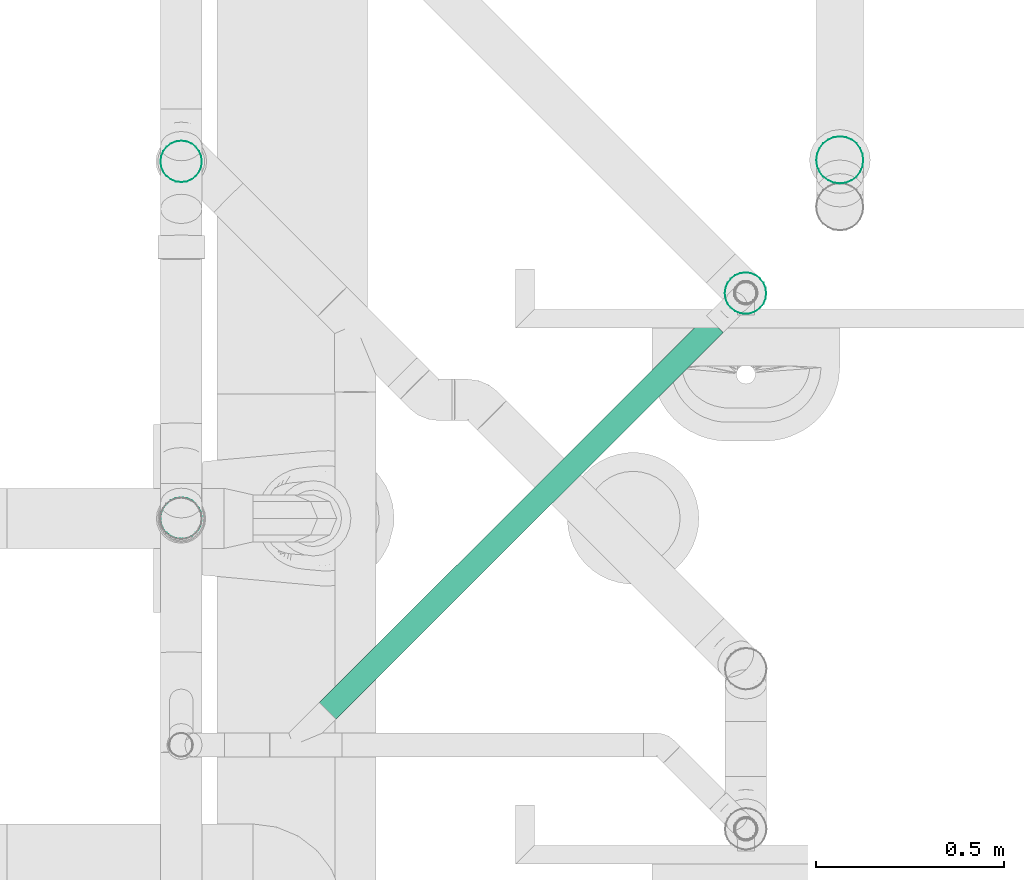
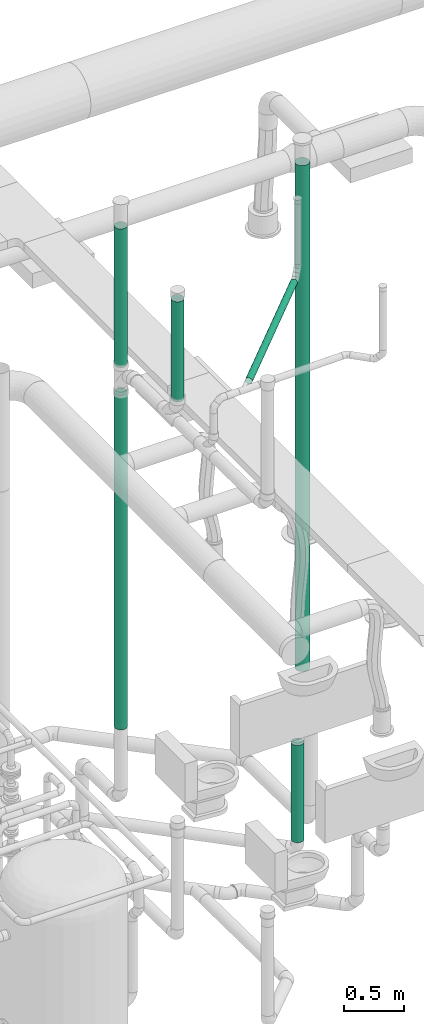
# One storey, part 219 of 374: 6 flow segments.
"""IFC2X3 building model written with IfcOpenShell, lengths in metres."""

import ifcopenshell
import ifcopenshell.guid

model = None  # the IFC model being written
_history = None  # IfcOwnerHistory: only IFC2X3 demands one
_inside = {}  # id of a spatial element -> (the spatial element, [elements in it])
_under = {}  # id of a project, library or spatial element -> (it, [spatial elements below it])
_declared = {}  # id of a project -> (the project, [libraries it declares])
_typed = {}  # id of a type object -> (the type object, [elements of that type])
_made_of = {}  # id of a material, layer set ... -> (it, [elements and type objects made of it])


def new_model(schema):
    """Start an empty IFC model of exactly this schema.

    Asked for "IFC4X3", IfcOpenShell would pick the latest addendum, in which some entities
    have other attributes; the version numbers below select the first issue.
    IFC2X3 requires an IfcOwnerHistory on every rooted entity: one is made here for all.
    """
    global model, _history
    if schema == "IFC4X3":
        model = ifcopenshell.file(schema_version=(4, 3, 0, 0))
    else:
        model = ifcopenshell.file(schema=schema)
    _inside.clear()
    _under.clear()
    _declared.clear()
    _typed.clear()
    _made_of.clear()
    _history = None
    if model.schema == "IFC2X3":
        org = make("IfcOrganization", Name="unknown")
        user = make(
            "IfcPersonAndOrganization",
            ThePerson=make("IfcPerson", FamilyName="unknown"),
            TheOrganization=org,
        )
        app = make(
            "IfcApplication",
            ApplicationDeveloper=org,
            Version="unknown",
            ApplicationFullName="unknown",
            ApplicationIdentifier="unknown",
        )
        _history = make(
            "IfcOwnerHistory",
            OwningUser=user,
            OwningApplication=app,
            ChangeAction="ADDED",
            CreationDate=0,
        )
    return model


def make(cls, **values):
    """One entity of the class cls with the attributes given. An attribute that is None is left unset."""
    return model.create_entity(
        cls, **{name: value for name, value in values.items() if value is not None}
    )


def rooted(cls, **values):
    """An entity with a GlobalId (a new one), such as an element, a storey or a relation."""
    return make(cls, GlobalId=ifcopenshell.guid.new(), OwnerHistory=_history, **values)


def si_unit(unit_type, name, prefix=None):
    """IfcSIUnit, for example si_unit("LENGTHUNIT", "METRE", prefix="MILLI")."""
    return make("IfcSIUnit", UnitType=unit_type, Prefix=prefix, Name=name)


def assignment(units):
    """IfcUnitAssignment: the units of a project."""
    return None if units is None else make("IfcUnitAssignment", Units=units)


def point(xyz):
    """IfcCartesianPoint."""
    return None if xyz is None else make("IfcCartesianPoint", Coordinates=xyz)


def direction(xyz):
    """IfcDirection."""
    return None if xyz is None else make("IfcDirection", DirectionRatios=xyz)


def frame(location, z_axis=None, x_axis=None):
    """IfcAxis2Placement3D, a coordinate frame: its origin and axes. An axis left out is left unset."""
    return make(
        "IfcAxis2Placement3D",
        Location=point(location),
        Axis=direction(z_axis),
        RefDirection=direction(x_axis),
    )


def origin():
    """The frame at (0, 0, 0) with its axes left unset."""
    return frame((0.0, 0.0, 0.0))


def place(relative_to, where):
    """IfcLocalPlacement: puts the frame where relative to a parent placement (None: the world)."""
    return make(
        "IfcLocalPlacement", PlacementRelTo=relative_to, RelativePlacement=where
    )


def context(
    kind, dimensions, precision=None, world=None, true_north=None, identifier=None
):
    """IfcGeometricRepresentationContext, for example the 3D "Model" context."""
    return make(
        "IfcGeometricRepresentationContext",
        ContextIdentifier=identifier,
        ContextType=kind,
        CoordinateSpaceDimension=dimensions,
        Precision=precision,
        WorldCoordinateSystem=world,
        TrueNorth=true_north,
    )


def subcontext(parent, identifier, kind, view, scale=None):
    """IfcGeometricRepresentationSubContext, for example "Body" below "Model"."""
    return make(
        "IfcGeometricRepresentationSubContext",
        ContextIdentifier=identifier,
        ContextType=kind,
        ParentContext=parent,
        TargetScale=scale,
        TargetView=view,
    )


def project(units=None, contexts=None):
    """IfcProject with its units and contexts."""
    return rooted(
        "IfcProject",
        Name="project",
        RepresentationContexts=contexts,
        UnitsInContext=assignment(units),
    )


def spatial(cls, under=None, at=None, **own):
    """A site, building, storey or space (cls), placed at a placement, below another one or the project."""
    s = rooted(cls, ObjectPlacement=at, **own)
    if under is not None:
        _under.setdefault(under.id(), (under, []))[1].append(s)
    return s


def faces_of(points, faces, orient=None, outer=None):
    """IfcFace entities. A face is a list of loops; a loop is a list of indices into points, from 0.

    orient and outer hold one flag for each loop. By default every Orientation is true, the
    first loop of a face is its IfcFaceOuterBound and the others are IfcFaceBound.
    """
    made = []
    for i, loops in enumerate(faces):
        bounds = []
        for j, loop in enumerate(loops):
            is_outer = j == 0 if outer is None else outer[i][j]
            bounds.append(
                make(
                    "IfcFaceOuterBound" if is_outer else "IfcFaceBound",
                    Bound=make("IfcPolyLoop", Polygon=[points[k] for k in loop]),
                    Orientation=True if orient is None else orient[i][j],
                )
            )
        made.append(make("IfcFace", Bounds=bounds))
    return made


def open_shell(faces, orient=None, outer=None):
    """The faces of one IfcOpenShell. surface_model builds it on its shared points."""
    return ("IfcOpenShell", faces, orient, outer)


def surface_model(cls, points, shells):
    """IfcFaceBasedSurfaceModel or IfcShellBasedSurfaceModel (cls): surfaces that need not close."""
    shared = [point(p) for p in points]
    made = [make(c, CfsFaces=faces_of(shared, fs, o, b)) for c, fs, o, b in shells]
    if cls == "IfcFaceBasedSurfaceModel":
        return make(cls, FbsmFaces=made)
    return make(cls, SbsmBoundary=made)


def shape(context_of_items, identifier, shape_type, items):
    """IfcShapeRepresentation: the items that make up one representation, for example the "Body"."""
    return make(
        "IfcShapeRepresentation",
        ContextOfItems=context_of_items,
        RepresentationIdentifier=identifier,
        RepresentationType=shape_type,
        Items=items,
    )


def source(mapping_origin, context_of_items, identifier, shape_type, items):
    """IfcRepresentationMap: a shape defined once, which mapped items show again and again."""
    return make(
        "IfcRepresentationMap",
        MappingOrigin=mapping_origin,
        MappedRepresentation=shape(context_of_items, identifier, shape_type, items),
    )


def transform(
    local_origin,
    x_axis=None,
    y_axis=None,
    z_axis=None,
    scale=None,
    scale2=None,
    scale3=None,
    uniform=True,
):
    """IfcCartesianTransformationOperator3D, or its non-uniform kind. x_axis, y_axis, z_axis: its Axis1, 2, 3."""
    if uniform:
        return make(
            "IfcCartesianTransformationOperator3D",
            Axis1=direction(x_axis),
            Axis2=direction(y_axis),
            LocalOrigin=point(local_origin),
            Scale=scale,
            Axis3=direction(z_axis),
        )
    return make(
        "IfcCartesianTransformationOperator3DnonUniform",
        Axis1=direction(x_axis),
        Axis2=direction(y_axis),
        LocalOrigin=point(local_origin),
        Scale=scale,
        Axis3=direction(z_axis),
        Scale2=scale2,
        Scale3=scale3,
    )


def mapped(mapping_source, mapping_target):
    """IfcMappedItem: shows the shape of a source again, moved by a transform."""
    return make(
        "IfcMappedItem", MappingSource=mapping_source, MappingTarget=mapping_target
    )


def made_of(thing, what):
    """Note that an element or type object is made of a material, layer set ...; save() writes the relation."""
    if what is not None:
        _made_of.setdefault(what.id(), (what, []))[1].append(thing)
    return thing


def element(
    cls,
    number,
    at=None,
    inside=None,
    cuts=None,
    type_object=None,
    material=None,
    context=None,
    identifier="Body",
    shape_type=None,
    held_by="IfcProductDefinitionShape",
    body=None,
    shapes=None,
    **own,
):
    """One element of the class cls, such as IfcWall. Its Tag is "e" and its number.

    at: its placement. inside: the storey or other place that contains it. cuts: it is an
    opening in that element (IfcRelVoidsElement). A single representation is given by context,
    identifier, shape_type and body (its items); several are given by shapes. held_by: the class
    of the entity that holds the representations. save() writes the other relations.
    """
    e = rooted(cls, Tag="e%d" % number, ObjectPlacement=at, **own)
    if body is not None:
        shapes = [shape(context, identifier, shape_type, body)]
    if shapes is not None:
        e.Representation = make(held_by, Representations=shapes)
    if inside is not None:
        _inside.setdefault(inside.id(), (inside, []))[1].append(e)
    if cuts is not None:
        rooted(
            "IfcRelVoidsElement", RelatingBuildingElement=cuts, RelatedOpeningElement=e
        )
    if type_object is not None:
        _typed.setdefault(type_object.id(), (type_object, []))[1].append(e)
    return made_of(e, material)


def aggregate(whole, parts):
    """IfcRelAggregates: a whole, such as a stair, and the parts it consists of."""
    return rooted("IfcRelAggregates", RelatingObject=whole, RelatedObjects=parts)


def save(model, path):
    """Write the relations noted so far, then the file.

    IfcRelAggregates (storeys below a building ...), IfcRelContainedInSpatialStructure (elements
    in a storey), IfcRelDefinesByType, IfcRelAssociatesMaterial and IfcRelDeclares: one each for
    every whole, place, type object, material and project.
    """
    for whole, parts in _under.values():
        aggregate(whole, parts)
    for where, things in _inside.values():
        rooted(
            "IfcRelContainedInSpatialStructure",
            RelatedElements=things,
            RelatingStructure=where,
        )
    for kind, things in _typed.values():
        rooted("IfcRelDefinesByType", RelatedObjects=things, RelatingType=kind)
    for what, things in _made_of.values():
        rooted("IfcRelAssociatesMaterial", RelatedObjects=things, RelatingMaterial=what)
    for by, libraries in _declared.values():
        rooted("IfcRelDeclares", RelatingContext=by, RelatedDefinitions=libraries)
    model.write(path)


model = new_model("IFC2X3")

# Units and contexts
model_context = context("Model", 3, precision=1e-05, world=origin(), true_north=direction((-0.4480736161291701, 0.8939966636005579)))
body_context = subcontext(model_context, "Body", "Model", "MODEL_VIEW")
ifc_project = project(units=[si_unit("LENGTHUNIT", "METRE"), si_unit("AREAUNIT", "SQUARE_METRE"), si_unit("VOLUMEUNIT", "CUBIC_METRE"), si_unit("PLANEANGLEUNIT", "RADIAN"), si_unit("THERMODYNAMICTEMPERATUREUNIT", "KELVIN"), si_unit("MASSUNIT", "GRAM", prefix="KILO"), si_unit("TIMEUNIT", "SECOND")], contexts=[model_context])

# Site, building, storey
site_placement = place(None, origin())
site = spatial("IfcSite", under=ifc_project, at=site_placement, Name="Site 1", CompositionType="ELEMENT")
building_placement = place(site_placement, origin())
building = spatial("IfcBuilding", under=site, at=building_placement, Name="Undefined", CompositionType="ELEMENT")
storey_placement = place(building_placement, origin())
storey = spatial("IfcBuildingStorey", under=building, at=storey_placement, Name="Rez de chauss\x8ee", CompositionType="ELEMENT", Elevation=0.0)

# Flow segments
shared_shape_1 = source(origin(), body_context, "Body", "SurfaceModel", [
    surface_model("IfcFaceBasedSurfaceModel", [(0.0, 0.014357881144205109, -3.552713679e-15), (0.0, 0.0, 0.0), (0.9910358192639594, 0.0, 0.0), (0.9910358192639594, 0.014357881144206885, 0.0), (0.0, -0.01386864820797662, -0.0037160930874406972), (0.9910358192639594, -0.013868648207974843, -0.0037160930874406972), (0.0, -0.026302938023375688, -0.010895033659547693), (0.9910358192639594, -0.02630293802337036, -0.010895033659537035), (0.0, -0.03645549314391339, -0.021047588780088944), (0.9910358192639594, -0.03645549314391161, -0.02104758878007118), (0.0, -0.04363443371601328, -0.033481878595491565), (0.9910358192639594, -0.04363443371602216, -0.033481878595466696), (0.0, -0.04735052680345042, -0.04735052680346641), (0.9910358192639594, -0.047350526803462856, -0.047350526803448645), (0.0, -0.04735052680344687, -0.06170840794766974), (0.9910358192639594, -0.047350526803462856, -0.061708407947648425), (0.0, -0.04363443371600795, -0.07557705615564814), (0.9910358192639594, -0.043634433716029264, -0.07557705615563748), (0.0, -0.03645549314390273, -0.08801134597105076), (0.9910358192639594, -0.03645549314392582, -0.0880113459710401), (0.0, -0.026302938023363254, -0.0981639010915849), (0.9910358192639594, -0.026302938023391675, -0.09816390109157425), (0.0, -0.013868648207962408, -0.1053428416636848), (0.9910358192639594, -0.013868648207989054, -0.10534284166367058), (0.0, 1.5987211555e-14, -0.10905893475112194), (0.9910358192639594, -1.4210854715e-14, -0.10905893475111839), (0.0, 0.014357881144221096, -0.10905893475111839), (0.9910358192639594, 0.014357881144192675, -0.10905893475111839), (0.0, 0.028226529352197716, -0.10534284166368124), (0.9910358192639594, 0.028226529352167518, -0.1053428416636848), (0.0, 0.040660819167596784, -0.0981639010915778), (0.9910358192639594, 0.040660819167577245, -0.09816390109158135), (0.0, 0.05081337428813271, -0.08801134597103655), (0.9910358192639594, 0.05081337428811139, -0.08801134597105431), (0.0, 0.05799231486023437, -0.07557705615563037), (0.9910358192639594, 0.05799231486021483, -0.07557705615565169), (0.0, 0.06170840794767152, -0.06170840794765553), (0.9910358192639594, 0.06170840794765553, -0.06170840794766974), (0.0, 0.061708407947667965, -0.0473505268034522), (0.9910358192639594, 0.061708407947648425, -0.04735052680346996), (0.0, 0.05799231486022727, -0.033481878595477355), (0.9910358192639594, 0.05799231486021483, -0.03348187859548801), (0.0, 0.050813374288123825, -0.021047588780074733), (0.9910358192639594, 0.0508133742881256, -0.021047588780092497), (0.0, 0.04066081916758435, -0.010895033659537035), (0.9910358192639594, 0.040660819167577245, -0.010895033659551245), (0.0, 0.028226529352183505, -0.0037160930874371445), (0.9910358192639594, 0.028226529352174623, -0.0037160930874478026)], [open_shell([[[0, 1, 2, 3]], [[1, 4, 5, 2]], [[4, 6, 7, 5]], [[6, 8, 9, 7]], [[8, 10, 11, 9]], [[10, 12, 13, 11]], [[12, 14, 15, 13]], [[14, 16, 17, 15]], [[16, 18, 19, 17]], [[18, 20, 21, 19]], [[20, 22, 23, 21]], [[22, 24, 25, 23]], [[24, 26, 27, 25]], [[26, 28, 29, 27]], [[28, 30, 31, 29]], [[30, 32, 33, 31]], [[32, 34, 35, 33]], [[34, 36, 37, 35]], [[36, 38, 39, 37]], [[38, 40, 41, 39]], [[40, 42, 43, 41]], [[42, 44, 45, 43]], [[44, 46, 47, 45]], [[46, 0, 3, 47]]])]),
])
flow_segment_1_placement = place(storey_placement, origin())
element("IfcFlowSegment", 1, at=flow_segment_1_placement, inside=storey, Name="PE-HD tuyau", ObjectType="PE-HD tuyau", context=body_context, shape_type="MappedRepresentation", body=[
    mapped(shared_shape_1, transform((58.54670767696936, 13.363238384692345, -1.0882536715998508), x_axis=(0.0, 0.0, 1.0), y_axis=(-0.7933533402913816, 0.6087614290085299, 0.0), z_axis=(-0.6087614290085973, -0.79335334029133, 0.0))),
])
shared_shape_2 = source(origin(), body_context, "Body", "SurfaceModel", [
    surface_model("IfcFaceBasedSurfaceModel", [(0.0, 0.014357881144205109, -3.552713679e-15), (0.0, 0.0, 0.0), (3.40983659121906, 0.0, 0.0), (3.40983659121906, 0.014357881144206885, 0.0), (0.0, -0.01386864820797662, -0.0037160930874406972), (3.40983659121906, -0.013868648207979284, -0.003716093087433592), (0.0, -0.026302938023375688, -0.010895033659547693), (3.40983659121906, -0.026302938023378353, -0.010895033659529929), (0.0, -0.03645549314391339, -0.021047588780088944), (3.40983659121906, -0.03645549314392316, -0.021047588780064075), (0.0, -0.04363443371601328, -0.033481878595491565), (3.40983659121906, -0.043634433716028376, -0.033481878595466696), (0.0, -0.04735052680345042, -0.04735052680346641), (3.40983659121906, -0.0473505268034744, -0.047350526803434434), (0.0, -0.04735052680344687, -0.06170840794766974), (3.40983659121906, -0.04735052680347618, -0.06170840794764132), (0.0, -0.04363443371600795, -0.07557705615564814), (3.40983659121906, -0.04363443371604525, -0.07557705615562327), (0.0, -0.03645549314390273, -0.08801134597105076), (3.40983659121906, -0.036455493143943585, -0.08801134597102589), (0.0, -0.026302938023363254, -0.0981639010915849), (3.40983659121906, -0.026302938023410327, -0.09816390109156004), (0.0, -0.013868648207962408, -0.1053428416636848), (3.40983659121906, -0.013868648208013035, -0.10534284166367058), (0.0, 1.5987211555e-14, -0.10905893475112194), (3.40983659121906, -3.6415315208e-14, -0.10905893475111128), (0.0, 0.014357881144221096, -0.10905893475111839), (3.40983659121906, 0.014357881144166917, -0.10905893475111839), (0.0, 0.028226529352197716, -0.10534284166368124), (3.40983659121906, 0.02822652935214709, -0.1053428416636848), (0.0, 0.040660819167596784, -0.0981639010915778), (3.40983659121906, 0.04066081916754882, -0.09816390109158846), (0.0, 0.05081337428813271, -0.08801134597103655), (3.40983659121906, 0.0508133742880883, -0.08801134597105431), (0.0, 0.05799231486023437, -0.07557705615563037), (3.40983659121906, 0.05799231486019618, -0.07557705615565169), (0.0, 0.06170840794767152, -0.06170840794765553), (3.40983659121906, 0.06170840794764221, -0.06170840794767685), (0.0, 0.061708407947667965, -0.0473505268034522), (3.40983659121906, 0.061708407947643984, -0.04735052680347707), (0.0, 0.05799231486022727, -0.033481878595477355), (3.40983659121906, 0.05799231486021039, -0.03348187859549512), (0.0, 0.050813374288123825, -0.021047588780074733), (3.40983659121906, 0.050813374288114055, -0.021047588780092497), (0.0, 0.04066081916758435, -0.010895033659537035), (3.40983659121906, 0.04066081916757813, -0.01089503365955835), (0.0, 0.028226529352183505, -0.0037160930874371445), (3.40983659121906, 0.028226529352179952, -0.0037160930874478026)], [open_shell([[[0, 1, 2, 3]], [[1, 4, 5, 2]], [[4, 6, 7, 5]], [[6, 8, 9, 7]], [[8, 10, 11, 9]], [[10, 12, 13, 11]], [[12, 14, 15, 13]], [[14, 16, 17, 15]], [[16, 18, 19, 17]], [[18, 20, 21, 19]], [[20, 22, 23, 21]], [[22, 24, 25, 23]], [[24, 26, 27, 25]], [[26, 28, 29, 27]], [[28, 30, 31, 29]], [[30, 32, 33, 31]], [[32, 34, 35, 33]], [[34, 36, 37, 35]], [[36, 38, 39, 37]], [[38, 40, 41, 39]], [[40, 42, 43, 41]], [[42, 44, 45, 43]], [[44, 46, 47, 45]], [[46, 0, 3, 47]]])]),
])
flow_segment_2_placement = place(storey_placement, origin())
element("IfcFlowSegment", 2, at=flow_segment_2_placement, inside=storey, Name="PE-HD tuyau", ObjectType="PE-HD tuyau", context=body_context, shape_type="MappedRepresentation", body=[
    mapped(shared_shape_2, transform((57.0208740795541, 13.74676495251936, 0.37370092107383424), x_axis=(0.0, 0.0, 1.0), y_axis=(-0.13052619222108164, 0.9914448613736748, 0.0), z_axis=(-0.9914448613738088, -0.13052619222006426, 0.0))),
])
shared_shape_3 = source(origin(), body_context, "Body", "SurfaceModel", [
    surface_model("IfcFaceBasedSurfaceModel", [(1.4549463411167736, -3.552713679e-15, 0.0), (1.4549566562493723, 0.008223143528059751, 0.0), (1.0315132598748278e-05, 0.008223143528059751, -3.552713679e-15), (0.0, 0.0, 0.0), (1.45496626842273, 0.016166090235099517, -0.0021283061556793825), (1.9927305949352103e-05, 0.016166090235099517, -0.00212830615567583), (1.4549745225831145, 0.02328754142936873, -0.006239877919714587), (2.8181466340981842e-05, 0.023287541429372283, -0.00623987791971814), (1.4549808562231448, 0.029102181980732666, -0.012054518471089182), (3.4515106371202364e-05, 0.02910218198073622, -0.012054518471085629), (1.4549848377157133, 0.03321375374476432, -0.019175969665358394), (3.849659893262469e-05, 0.03321375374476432, -0.01917596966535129), (1.4549861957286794, 0.035342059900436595, -0.027118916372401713), (3.9854611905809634e-05, 0.03534205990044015, -0.027118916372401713), (1.4549848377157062, 0.03534205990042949, -0.03534205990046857), (3.849659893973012e-05, 0.035342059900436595, -0.03534205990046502), (1.4549808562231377, 0.03321375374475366, -0.04328500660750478), (3.4515106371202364e-05, 0.03321375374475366, -0.043285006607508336), (1.4549745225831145, 0.02910218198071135, -0.050406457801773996), (2.8181466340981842e-05, 0.029102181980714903, -0.05040645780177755), (1.454966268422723, 0.023287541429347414, -0.056221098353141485), (1.9927305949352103e-05, 0.023287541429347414, -0.056221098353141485), (1.4549566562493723, 0.016166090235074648, -0.060332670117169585), (1.0315132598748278e-05, 0.016166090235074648, -0.06033267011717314), (1.4549463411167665, 0.00822314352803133, -0.06246097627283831), (0.0, 0.00822314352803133, -0.062460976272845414), (1.454936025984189, -3.5527136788e-14, -0.062460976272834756), (-1.0315132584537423e-05, -3.1974423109e-14, -0.062460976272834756), (1.4549264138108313, -0.007942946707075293, -0.060332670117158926), (-1.9927305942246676e-05, -0.007942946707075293, -0.06033267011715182), (1.4549181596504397, -0.015064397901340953, -0.056221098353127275), (-2.8181466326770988e-05, -0.015064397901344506, -0.05622109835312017), (1.4549118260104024, -0.020879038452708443, -0.05040645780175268), (-3.4515106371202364e-05, -0.020879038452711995, -0.05040645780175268), (1.454907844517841, -0.024990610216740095, -0.043285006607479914), (-3.849659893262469e-05, -0.024990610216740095, -0.043285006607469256), (1.4549064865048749, -0.02711891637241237, -0.035342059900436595), (-3.9854611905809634e-05, -0.02711891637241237, -0.035342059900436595), (1.454907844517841, -0.027118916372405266, -0.027118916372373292), (-3.849659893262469e-05, -0.027118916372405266, -0.027118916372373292), (1.4549118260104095, -0.024990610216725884, -0.019175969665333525), (-3.451510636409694e-05, -0.024990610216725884, -0.019175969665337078), (1.4549181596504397, -0.02087903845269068, -0.01205451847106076), (-2.8181466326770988e-05, -0.02087903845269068, -0.012054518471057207), (1.4549264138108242, -0.015064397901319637, -0.006239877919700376), (-1.9927305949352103e-05, -0.01506439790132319, -0.0062398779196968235), (1.454936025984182, -0.007942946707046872, -0.0021283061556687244), (-1.031513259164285e-05, -0.007942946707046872, -0.0021283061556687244)], [open_shell([[[0, 1, 2, 3]], [[1, 4, 5, 2]], [[4, 6, 7, 5]], [[6, 8, 9, 7]], [[8, 10, 11, 9]], [[10, 12, 13, 11]], [[12, 14, 15, 13]], [[14, 16, 17, 15]], [[16, 18, 19, 17]], [[18, 20, 21, 19]], [[20, 22, 23, 21]], [[22, 24, 25, 23]], [[24, 26, 27, 25]], [[26, 28, 29, 27]], [[28, 30, 31, 29]], [[30, 32, 33, 31]], [[32, 34, 35, 33]], [[34, 36, 37, 35]], [[36, 38, 39, 37]], [[38, 40, 41, 39]], [[40, 42, 43, 41]], [[42, 44, 45, 43]], [[44, 46, 47, 45]], [[46, 0, 3, 47]]])]),
])
flow_segment_3_placement = place(storey_placement, origin())
element("IfcFlowSegment", 3, at=flow_segment_3_placement, inside=storey, Name="PE-HD tuyau", ObjectType="PE-HD tuyau", context=body_context, shape_type="MappedRepresentation", body=[
    mapped(shared_shape_3, transform((58.51137193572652, 13.31085099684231, 4.646778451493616), x_axis=(-0.7072013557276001, -0.706841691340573, -0.015526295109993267), y_axis=(-0.45379617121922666, 0.4706480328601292, -0.7566765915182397), z_axis=(0.5421579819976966, -0.528076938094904, -0.6536049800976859))),
])
shared_shape_4 = source(origin(), body_context, "Body", "SurfaceModel", [
    surface_model("IfcFaceBasedSurfaceModel", [(0.0, 0.014357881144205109, -3.552713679e-15), (0.0, 0.0, 0.0), (1.413600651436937, 0.0, 0.0), (1.413600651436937, 0.014357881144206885, 0.0), (0.0, -0.01386864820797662, -0.0037160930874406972), (1.413600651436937, -0.013868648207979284, -0.0037160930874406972), (0.0, -0.026302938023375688, -0.010895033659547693), (1.413600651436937, -0.026302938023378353, -0.010895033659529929), (0.0, -0.03645549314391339, -0.021047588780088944), (1.413600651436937, -0.03645549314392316, -0.021047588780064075), (0.0, -0.04363443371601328, -0.033481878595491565), (1.413600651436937, -0.043634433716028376, -0.033481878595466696), (0.0, -0.04735052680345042, -0.04735052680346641), (1.413600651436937, -0.0473505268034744, -0.04735052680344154), (0.0, -0.04735052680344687, -0.06170840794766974), (1.413600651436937, -0.04735052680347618, -0.06170840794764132), (0.0, -0.04363443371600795, -0.07557705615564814), (1.413600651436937, -0.04363443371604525, -0.07557705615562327), (0.0, -0.03645549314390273, -0.08801134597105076), (1.413600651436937, -0.03645549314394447, -0.08801134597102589), (0.0, -0.026302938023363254, -0.0981639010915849), (1.413600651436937, -0.026302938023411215, -0.09816390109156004), (0.0, -0.013868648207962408, -0.1053428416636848), (1.413600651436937, -0.013868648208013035, -0.10534284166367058), (0.0, 1.5987211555e-14, -0.10905893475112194), (1.413600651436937, -3.7303493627e-14, -0.10905893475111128), (0.0, 0.014357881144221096, -0.10905893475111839), (1.413600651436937, 0.014357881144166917, -0.10905893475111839), (0.0, 0.028226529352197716, -0.10534284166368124), (1.413600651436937, 0.0282265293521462, -0.10534284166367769), (0.0, 0.040660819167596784, -0.0981639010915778), (1.413600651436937, 0.040660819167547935, -0.09816390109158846), (0.0, 0.05081337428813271, -0.08801134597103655), (1.413600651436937, 0.0508133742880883, -0.08801134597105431), (0.0, 0.05799231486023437, -0.07557705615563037), (1.413600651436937, 0.05799231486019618, -0.0755770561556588), (0.0, 0.06170840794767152, -0.06170840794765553), (1.413600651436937, 0.06170840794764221, -0.06170840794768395), (0.0, 0.061708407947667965, -0.0473505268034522), (1.413600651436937, 0.061708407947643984, -0.04735052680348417), (0.0, 0.05799231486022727, -0.033481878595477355), (1.413600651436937, 0.05799231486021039, -0.03348187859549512), (0.0, 0.050813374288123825, -0.021047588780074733), (1.413600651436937, 0.050813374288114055, -0.021047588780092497), (0.0, 0.04066081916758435, -0.010895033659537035), (1.413600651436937, 0.04066081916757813, -0.01089503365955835), (0.0, 0.028226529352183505, -0.0037160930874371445), (1.413600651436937, 0.028226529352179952, -0.0037160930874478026)], [open_shell([[[0, 1, 2, 3]], [[1, 4, 5, 2]], [[4, 6, 7, 5]], [[6, 8, 9, 7]], [[8, 10, 11, 9]], [[10, 12, 13, 11]], [[12, 14, 15, 13]], [[14, 16, 17, 15]], [[16, 18, 19, 17]], [[18, 20, 21, 19]], [[20, 22, 23, 21]], [[22, 24, 25, 23]], [[24, 26, 27, 25]], [[26, 28, 29, 27]], [[28, 30, 31, 29]], [[30, 32, 33, 31]], [[32, 34, 35, 33]], [[34, 36, 37, 35]], [[36, 38, 39, 37]], [[38, 40, 41, 39]], [[40, 42, 43, 41]], [[42, 44, 45, 43]], [[44, 46, 47, 45]], [[46, 0, 3, 47]]])]),
])
flow_segment_4_placement = place(storey_placement, origin())
element("IfcFlowSegment", 4, at=flow_segment_4_placement, inside=storey, Name="PE-HD tuyau", ObjectType="PE-HD tuyau", context=body_context, shape_type="MappedRepresentation", body=[
    mapped(shared_shape_4, transform((57.0208740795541, 13.74676495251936, 4.063837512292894), x_axis=(0.0, 0.0, 1.0), y_axis=(-0.13052619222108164, 0.9914448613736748, 0.0), z_axis=(-0.9914448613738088, -0.13052619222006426, 0.0))),
])
shared_shape_5 = source(origin(), body_context, "Body", "SurfaceModel", [
    surface_model("IfcFaceBasedSurfaceModel", [(0.0, 0.0163157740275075, 0.0), (0.0, 0.0, 0.0), (5.153697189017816, 8.8817842e-16, 0.0), (5.153697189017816, 0.0163157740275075, 0.0), (0.0, -0.015759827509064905, -0.004222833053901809), (5.153697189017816, -0.015759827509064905, -0.00422283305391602), (0.0, -0.029889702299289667, -0.012380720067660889), (5.153697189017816, -0.029889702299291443, -0.0123807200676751), (0.0, -0.04142669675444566, -0.02391771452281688), (5.153697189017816, -0.041426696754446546, -0.023917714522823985), (0.0, -0.04958458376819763, -0.038047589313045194), (5.153697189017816, -0.0495845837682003, -0.0380475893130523), (0.0, -0.053807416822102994, -0.053807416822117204), (5.153697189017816, -0.05380741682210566, -0.053807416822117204), (0.0, -0.053807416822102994, -0.07012319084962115), (5.153697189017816, -0.053807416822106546, -0.07012319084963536), (0.0, -0.04958458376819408, -0.08588301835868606), (5.153697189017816, -0.04958458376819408, -0.08588301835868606), (0.0, -0.04142669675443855, -0.10001289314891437), (5.153697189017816, -0.04142669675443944, -0.10001289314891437), (0.0, -0.02988970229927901, -0.11154988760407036), (5.153697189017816, -0.029889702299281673, -0.11154988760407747), (0.0, -0.015759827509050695, -0.11970777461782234), (5.153697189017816, -0.015759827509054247, -0.11970777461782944), (0.0, 1.4210854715e-14, -0.12393060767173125), (5.153697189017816, 1.2434497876e-14, -0.12393060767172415), (0.0, 0.016315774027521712, -0.12393060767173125), (5.153697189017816, 0.016315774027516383, -0.12393060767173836), (0.0, 0.03207560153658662, -0.11970777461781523), (5.153697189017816, 0.03207560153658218, -0.11970777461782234), (0.0, 0.04620547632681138, -0.11154988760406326), (5.153697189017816, 0.04620547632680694, -0.11154988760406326), (0.0, 0.05774247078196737, -0.10001289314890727), (5.153697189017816, 0.057742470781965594, -0.10001289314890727), (0.0, 0.06590035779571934, -0.08588301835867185), (5.153697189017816, 0.06590035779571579, -0.08588301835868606), (0.0, 0.0701231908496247, -0.07012319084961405), (5.153697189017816, 0.07012319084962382, -0.07012319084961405), (0.0, 0.0701231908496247, -0.05380741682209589), (5.153697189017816, 0.07012319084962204, -0.053807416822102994), (0.0, 0.06590035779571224, -0.03804758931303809), (5.153697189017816, 0.06590035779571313, -0.038047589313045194), (0.0, 0.05774247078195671, -0.023917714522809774), (5.153697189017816, 0.057742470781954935, -0.023917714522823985), (0.0, 0.04620547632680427, -0.012380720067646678), (5.153697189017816, 0.046205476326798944, -0.012380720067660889), (0.0, 0.03207560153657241, -0.004222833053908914), (5.153697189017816, 0.03207560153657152, -0.004222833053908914)], [open_shell([[[0, 1, 2, 3]], [[1, 4, 5, 2]], [[4, 6, 7, 5]], [[6, 8, 9, 7]], [[8, 10, 11, 9]], [[10, 12, 13, 11]], [[12, 14, 15, 13]], [[14, 16, 17, 15]], [[16, 18, 19, 17]], [[18, 20, 21, 19]], [[20, 22, 23, 21]], [[22, 24, 25, 23]], [[24, 26, 27, 25]], [[26, 28, 29, 27]], [[28, 30, 31, 29]], [[30, 32, 33, 31]], [[32, 34, 35, 33]], [[34, 36, 37, 35]], [[36, 38, 39, 37]], [[38, 40, 41, 39]], [[40, 42, 43, 41]], [[42, 44, 45, 43]], [[44, 46, 47, 45]], [[46, 0, 3, 47]]])]),
])
flow_segment_5_placement = place(storey_placement, origin())
element("IfcFlowSegment", 5, at=flow_segment_5_placement, inside=storey, Name="PE-HD tuyau", ObjectType="PE-HD tuyau", context=body_context, shape_type="MappedRepresentation", body=[
    mapped(shared_shape_5, transform((58.764522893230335, 13.748823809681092, 0.3577009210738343), x_axis=(0.0, 0.0, 1.0), y_axis=(-0.13052619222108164, 0.9914448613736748, 0.0), z_axis=(-0.9914448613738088, -0.13052619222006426, 0.0))),
])
shared_shape_6 = source(origin(), body_context, "Body", "SurfaceModel", [
    surface_model("IfcFaceBasedSurfaceModel", [(0.0002503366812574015, 0.0143556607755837, 0.0), (0.0, 0.0, 0.0), (1.0182136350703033, -8.8817842e-16, 7.105427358e-15), (1.0184639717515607, 0.014355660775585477, 7.105427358e-15), (-0.00023327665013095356, -0.013866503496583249, -0.0037155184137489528), (1.0179803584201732, -0.013866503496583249, -0.0037155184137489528), (-0.00043359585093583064, -0.02629887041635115, -0.01089334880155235), (1.0177800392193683, -0.02629887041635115, -0.01089334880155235), (-0.0005873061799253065, -0.03644985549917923, -0.0210443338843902), (1.0176263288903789, -0.03644985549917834, -0.0210443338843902), (-0.0006839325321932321, -0.04362768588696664, -0.0334767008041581), (1.017529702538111, -0.04362768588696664, -0.0334767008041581), (-0.0007168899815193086, -0.04734320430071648, -0.04734320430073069), (1.017496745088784, -0.0473432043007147, -0.04734320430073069), (-0.0006839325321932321, -0.04734320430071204, -0.06169886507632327), (1.017529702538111, -0.04734320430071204, -0.06169886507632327), (-0.0005873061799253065, -0.04362768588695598, -0.07556536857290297), (1.0176263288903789, -0.04362768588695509, -0.07556536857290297), (-0.00043359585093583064, -0.03644985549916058, -0.08799773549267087), (1.0177800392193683, -0.03644985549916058, -0.08799773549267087), (-0.00023327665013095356, -0.02629887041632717, -0.09814872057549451), (1.0179803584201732, -0.02629887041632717, -0.09814872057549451), (0.0, -0.013866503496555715, -0.1053265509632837), (1.0182136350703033, -0.013866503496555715, -0.1053265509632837), (0.0002503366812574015, 2.842170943e-14, -0.10904206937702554), (1.0184639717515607, 3.019806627e-14, -0.10904206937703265), (0.000500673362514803, 0.014355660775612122, -0.10904206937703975), (1.018714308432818, 0.014355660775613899, -0.10904206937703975), (0.0007339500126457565, 0.02822216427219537, -0.10532655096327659), (1.018947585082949, 0.02822216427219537, -0.10532655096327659), (0.0009342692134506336, 0.040654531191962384, -0.09814872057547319), (1.0191479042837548, 0.040654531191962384, -0.09814872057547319), (0.0010879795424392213, 0.05080551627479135, -0.08799773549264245), (1.0193016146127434, 0.05080551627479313, -0.08799773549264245), (0.0011846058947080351, 0.05798334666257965, -0.07556536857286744), (1.0193982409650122, 0.05798334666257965, -0.07556536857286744), (0.0012175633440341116, 0.061698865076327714, -0.061698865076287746), (1.0194311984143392, 0.061698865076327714, -0.061698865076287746), (0.0011846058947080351, 0.06169886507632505, -0.04734320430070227), (1.0193982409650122, 0.06169886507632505, -0.04734320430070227), (0.0010879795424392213, 0.0579833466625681, -0.03347670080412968), (1.0193016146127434, 0.05798334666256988, -0.03347670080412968), (0.0009342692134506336, 0.05080551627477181, -0.02104433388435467), (1.0191479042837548, 0.05080551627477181, -0.02104433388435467), (0.0007339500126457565, 0.04065453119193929, -0.010893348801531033), (1.018947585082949, 0.04065453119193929, -0.010893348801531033), (0.000500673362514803, 0.02822216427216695, -0.0037155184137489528), (1.018714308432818, 0.028222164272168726, -0.0037155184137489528)], [open_shell([[[0, 1, 2, 3]], [[1, 4, 5, 2]], [[4, 6, 7, 5]], [[6, 8, 9, 7]], [[8, 10, 11, 9]], [[10, 12, 13, 11]], [[12, 14, 15, 13]], [[14, 16, 17, 15]], [[16, 18, 19, 17]], [[18, 20, 21, 19]], [[20, 22, 23, 21]], [[22, 24, 25, 23]], [[24, 26, 27, 25]], [[26, 28, 29, 27]], [[28, 30, 31, 29]], [[30, 32, 33, 31]], [[32, 34, 35, 33]], [[34, 36, 37, 35]], [[36, 38, 39, 37]], [[38, 40, 41, 39]], [[40, 42, 43, 41]], [[42, 44, 45, 43]], [[44, 46, 47, 45]], [[46, 0, 3, 47]]])]),
])
flow_segment_6_placement = place(storey_placement, origin())
element("IfcFlowSegment", 6, at=flow_segment_6_placement, inside=storey, Name="PE-HD tuyau", ObjectType="PE-HD tuyau", context=body_context, shape_type="MappedRepresentation", body=[
    mapped(shared_shape_6, transform((57.0208822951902, 12.798205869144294, 4.291140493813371), x_axis=(0.0, 6.677669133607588e-05, 0.9999999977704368), y_axis=(-0.13052619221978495, 0.9914448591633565, -6.620540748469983e-05), z_axis=(-0.9914448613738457, -0.13052619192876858, 8.716107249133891e-06))),
])

save(model, "model.ifc")
